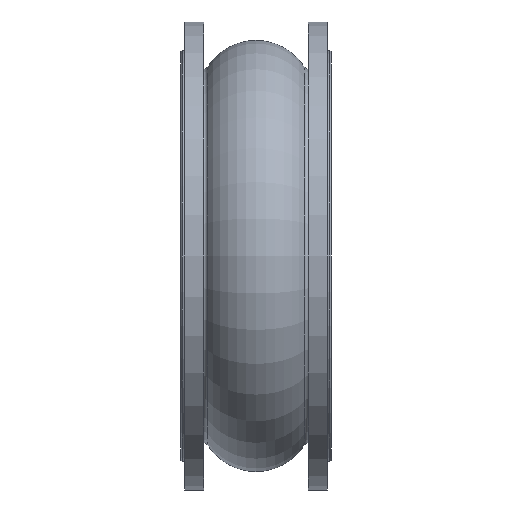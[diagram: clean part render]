
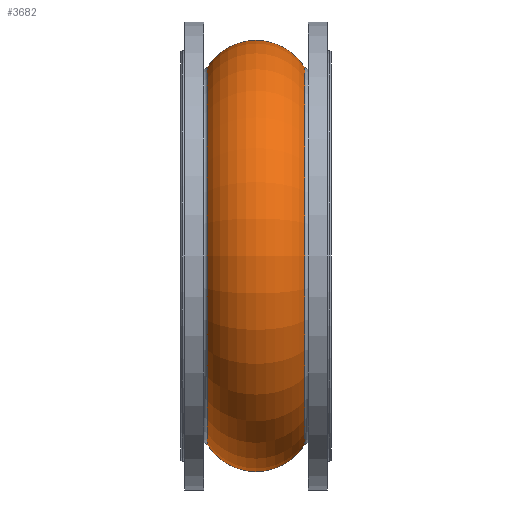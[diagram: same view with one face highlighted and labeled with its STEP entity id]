
A CAD part, front view. The second image highlights one B-rep face of the part: STEP entity #3682.
In plain terms, the highlighted toroidal (fillet/blend) face has major radius 263.58 mm and minor radius 95.84 mm.
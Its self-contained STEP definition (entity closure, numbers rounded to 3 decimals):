
#275 = CARTESIAN_POINT ( 'NONE',  ( 0., 0., 0. ) ) ;
#277 = TOROIDAL_SURFACE ( 'NONE', #299, 263.58, 95.84 ) ;
#280 = DIRECTION ( 'NONE',  ( 0., 0., 1. ) ) ;
#281 = DIRECTION ( 'NONE',  ( -1., 0., 0. ) ) ;
#299 = AXIS2_PLACEMENT_3D ( 'NONE', #275, #281, #280 ) ;
#322 = FACE_OUTER_BOUND ( 'NONE', #3679, .T. ) ;
#928 = DIRECTION ( 'NONE',  ( 0., 0., 1. ) ) ;
#929 = DIRECTION ( 'NONE',  ( -1., 0., 0. ) ) ;
#930 = CARTESIAN_POINT ( 'NONE',  ( -81.003, 0., 0. ) ) ;
#931 = AXIS2_PLACEMENT_3D ( 'NONE', #930, #929, #928 ) ;
#959 = CIRCLE ( 'NONE', #931, 314.803 ) ;
#960 = DIRECTION ( 'NONE',  ( 0., 0., -1. ) ) ;
#961 = DIRECTION ( 'NONE',  ( 0., -1., 0. ) ) ;
#962 = CARTESIAN_POINT ( 'NONE',  ( 0., 0., 263.58 ) ) ;
#963 = CIRCLE ( 'NONE', #968, 95.84 ) ;
#968 = AXIS2_PLACEMENT_3D ( 'NONE', #962, #961, #960 ) ;
#979 = CARTESIAN_POINT ( 'NONE',  ( 81.003, 0., 314.803 ) ) ;
#986 = CARTESIAN_POINT ( 'NONE',  ( 81.003, 0., -314.803 ) ) ;
#2212 = CARTESIAN_POINT ( 'NONE',  ( -81.003, 0., 314.803 ) ) ;
#2219 = DIRECTION ( 'NONE',  ( 0., 0., 1. ) ) ;
#2220 = DIRECTION ( 'NONE',  ( -1., 0., 0. ) ) ;
#2221 = CARTESIAN_POINT ( 'NONE',  ( 81.003, 0., 0. ) ) ;
#2222 = CIRCLE ( 'NONE', #2353, 314.803 ) ;
#2353 = AXIS2_PLACEMENT_3D ( 'NONE', #2221, #2220, #2219 ) ;
#2397 = CARTESIAN_POINT ( 'NONE',  ( -81.003, 0., -314.803 ) ) ;
#2426 = DIRECTION ( 'NONE',  ( 0., 0., 1. ) ) ;
#2427 = DIRECTION ( 'NONE',  ( 0., 1., 0. ) ) ;
#2428 = CARTESIAN_POINT ( 'NONE',  ( 0., 0., -263.58 ) ) ;
#2431 = CIRCLE ( 'NONE', #2458, 95.84 ) ;
#2458 = AXIS2_PLACEMENT_3D ( 'NONE', #2428, #2427, #2426 ) ;
#3355 = EDGE_CURVE ( 'NONE', #3471, #3476, #2222, .T. ) ;
#3364 = VERTEX_POINT ( 'NONE', #2212 ) ;
#3413 = VERTEX_POINT ( 'NONE', #2397 ) ;
#3414 = EDGE_CURVE ( 'NONE', #3471, #3413, #2431, .T. ) ;
#3471 = VERTEX_POINT ( 'NONE', #986 ) ;
#3475 = EDGE_CURVE ( 'NONE', #3476, #3364, #963, .T. ) ;
#3476 = VERTEX_POINT ( 'NONE', #979 ) ;
#3479 = EDGE_CURVE ( 'NONE', #3413, #3364, #959, .T. ) ;
#3632 = ORIENTED_EDGE ( 'NONE', *, *, #3414, .F. ) ;
#3633 = ORIENTED_EDGE ( 'NONE', *, *, #3475, .T. ) ;
#3677 = ORIENTED_EDGE ( 'NONE', *, *, #3355, .T. ) ;
#3679 = EDGE_LOOP ( 'NONE', ( #3632, #3677, #3633, #3683 ) ) ;
#3682 = ADVANCED_FACE ( 'NONE', ( #322 ), #277, .T. ) ;
#3683 = ORIENTED_EDGE ( 'NONE', *, *, #3479, .F. ) ;
